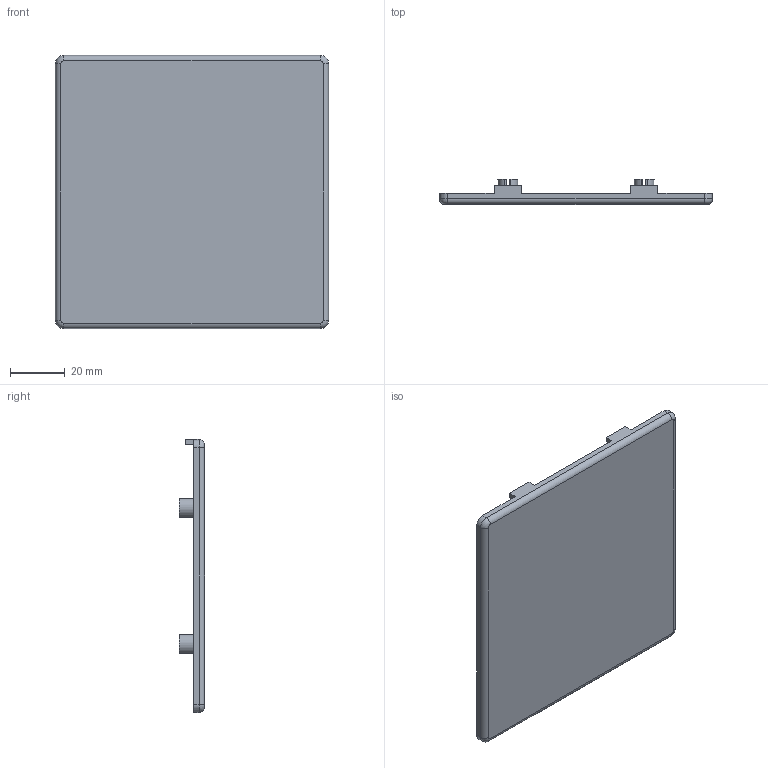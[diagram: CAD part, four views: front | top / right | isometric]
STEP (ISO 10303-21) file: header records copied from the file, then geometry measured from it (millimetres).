
FILE_DESCRIPTION (( 'STEP AP214' ), '1' );
FILE_NAME ('4018.STEP', '2017-08-10T06:21:19', ( '' ), ( '' ), 'SwSTEP 2.0', 'SolidWorks 2014', '' );
FILE_SCHEMA (( 'AUTOMOTIVE_DESIGN' ));
Length unit declared in the file: millimetre
Products named in the file (2): 4018
Bounding box: 100 x 9.2 x 100 mm (x, y, z)
Volume: 21830.6 mm3; surface area: 23205.3 mm2
Topology: 1 solids, 1 shells, 114 faces, 304 edges, 200 vertices
Faces by surface type: cylinder 68, plane 42, torus 4
Entity records: 3653 total; most frequent: DIRECTION 676, CARTESIAN_POINT 620, ORIENTED_EDGE 608, EDGE_CURVE 304, AXIS2_PLACEMENT_3D 256, VERTEX_POINT 200, LINE 164, VECTOR 164
